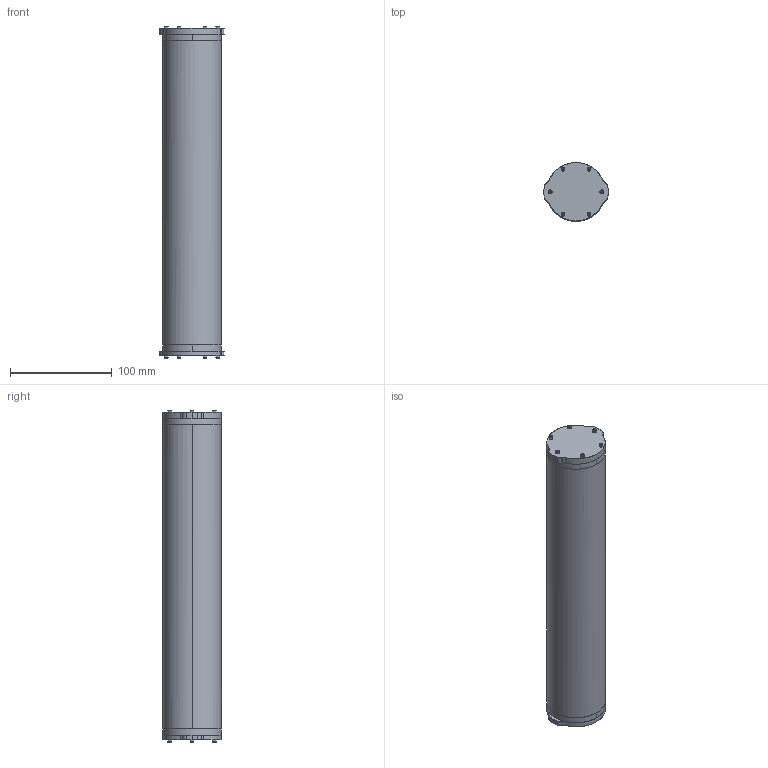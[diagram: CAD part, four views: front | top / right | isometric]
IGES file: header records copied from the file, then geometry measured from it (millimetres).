
Start section: SolidWorks IGES file using NURBS representation for surfaces
Global section: file name: C:\Users\rjehangir\Dropbox\BlueRobotics\BR-Engineering\Models\WTC-2-X1A -PUBLIC\WTC-ASM-2-R1.IGS; native system: SolidWorks 2012; preprocessor: SolidWorks 2012; author: rjehangir; date: 150712.195217; units: inch
Bounding box: 63.15 x 57.15 x 325.56 mm (x, y, z)
Surface area: 134521.6 mm2 (no closed solid volume)
Topology: 0 solids, 0 shells, 536 faces, 7416 edges, 7392 vertices
Faces by surface type: bspline 536
